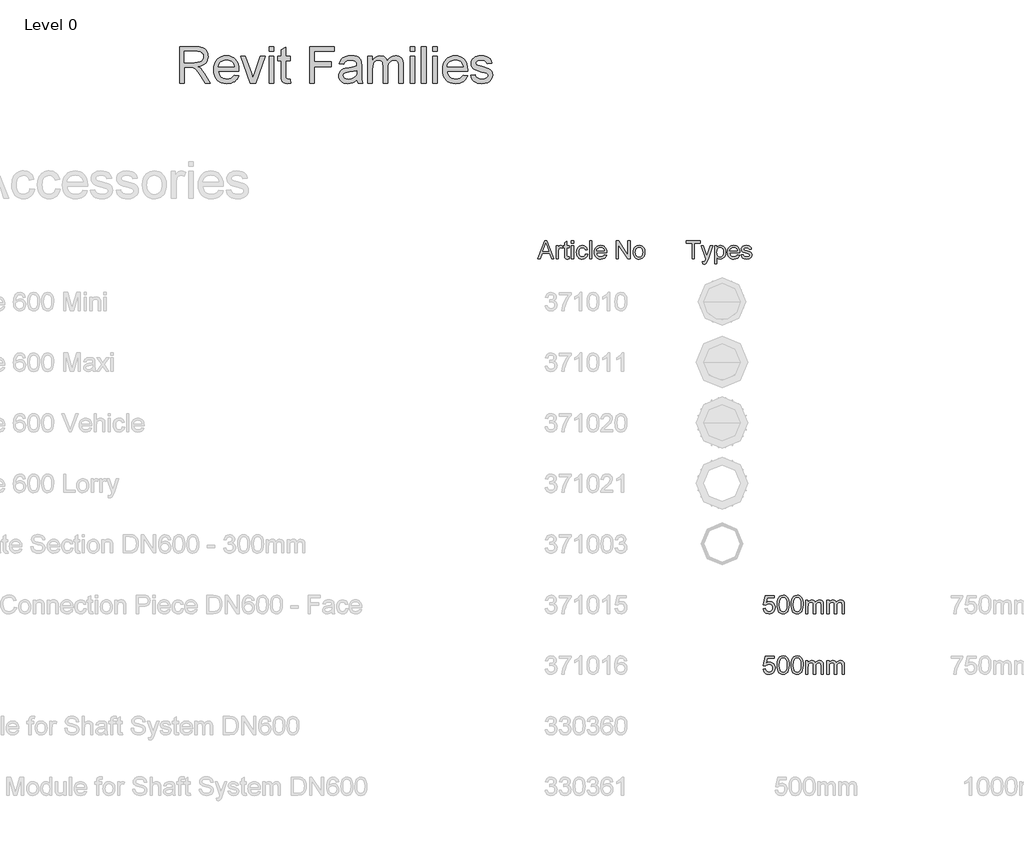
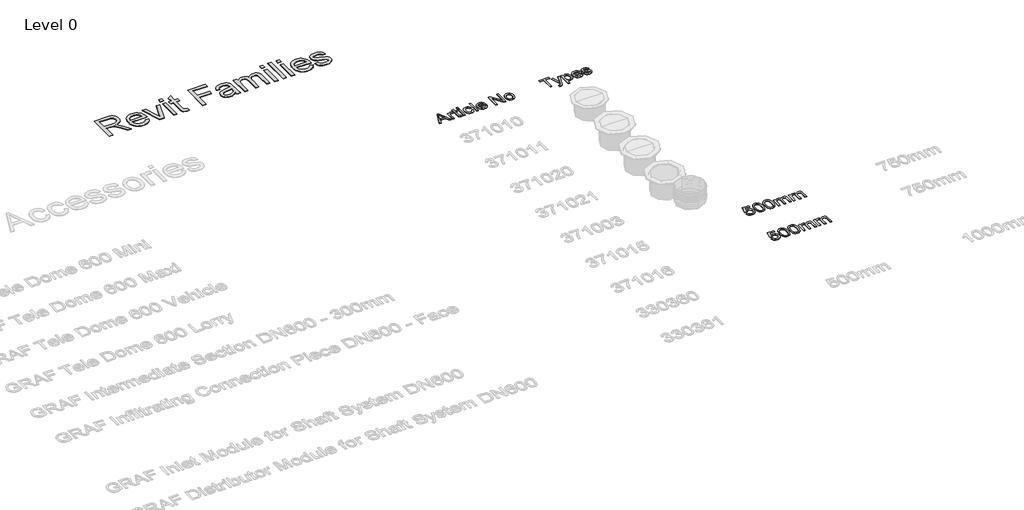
# One storey, part 24 of 25: 5 proxies.
"""IFC4 building model written with IfcOpenShell, lengths in millimetres."""

from ifc_helpers import new_model, si_unit, origin, origin_with_axes, place, context, project, spatial, polyline, outline, extrude, element, save

model = new_model("IFC4")

# Units and contexts
model_context = context("Model", 3, world=origin())
ifc_project = project(units=[si_unit("LENGTHUNIT", "METRE", prefix="MILLI")], contexts=[model_context])

# Site, building, storey
site = spatial("IfcSite", under=ifc_project)
building = spatial("IfcBuilding", under=site)
storey = spatial("IfcBuildingStorey", under=building, Name="Level 0", Elevation=0.0)

# Proxies
placement = place(None, origin())
element("IfcBuildingElementProxy", 1, Name="300mm Arial", ObjectType="300mm Arial", at=placement, inside=storey, context=model_context, shape_type="SweptSolid", body=[
    extrude(outline(polyline([(-3312.9807775, 8653.8274553), (-3195.0721236, 8949.2120707), (-3163.6298159, 8949.2120707), (-3045.7211621, 8653.8274553), (-3084.7355852, 8653.8274553), (-3118.5577005, 8746.1351476), (-3240.2163544, 8746.1351476), (-3273.9663544, 8653.8274553), (-3312.9807775, 8653.8274553)]), holes=[polyline([(-3226.6586621, 8783.0582246), (-3132.0432775, 8783.0582246), (-3158.6538544, 8855.6784169), (-3179.3509698, 8912.2889938), (-3197.7403928, 8862.0245707), (-3226.6586621, 8783.0582246)])]), origin_with_axes(), (0.0, 0.0, 1.0), 10.0),
    extrude(outline(polyline([(-3010.8894313, 8653.8274553), (-3010.8894313, 8870.7505323), (-2978.581739, 8870.7505323), (-2978.581739, 8838.6591861), (-2966.6466428, 8857.2649553), (-2955.6490467, 8868.2264938), (-2944.6153928, 8873.5810611), (-2932.5721236, 8875.3659169), (-2914.1827005, 8872.5173592), (-2895.5048159, 8863.9716861), (-2907.8365467, 8830.8707246), (-2920.8173159, 8836.5498111), (-2933.7980852, 8838.44284), (-2944.8227246, 8836.6219265), (-2954.675489, 8831.1591861), (-2962.6352246, 8822.4692823), (-2967.9807775, 8810.9668784), (-2972.4699602, 8790.3418784), (-2973.9663544, 8767.8418784), (-2973.9663544, 8653.8274553), (-3010.8894313, 8653.8274553)])), origin_with_axes(), (0.0, 0.0, 1.0), 10.0),
    extrude(outline(polyline([(-2793.9663544, 8684.6207246), (-2789.3509698, 8652.7457246), (-2816.9711621, 8649.2120707), (-2834.6935178, 8650.7445226), (-2847.9086621, 8655.3418784), (-2857.2476044, 8662.427215), (-2863.3413544, 8671.4236092), (-2866.6947198, 8686.8743303), (-2867.8125082, 8713.3226476), (-2867.8125082, 8833.8274553), (-2895.5048159, 8833.8274553), (-2895.5048159, 8870.7505323), (-2867.8125082, 8870.7505323), (-2867.8125082, 8923.4668784), (-2830.8894313, 8945.1736092), (-2830.8894313, 8870.7505323), (-2793.9663544, 8870.7505323), (-2793.9663544, 8833.8274553), (-2830.8894313, 8833.8274553), (-2830.8894313, 8714.4043784), (-2828.9423159, 8695.3659169), (-2822.6322198, 8688.6231284), (-2810.0480852, 8686.1351476), (-2793.9663544, 8684.6207246)])), origin_with_axes(), (0.0, 0.0, 1.0), 10.0),
    extrude(outline(polyline([(-2757.0432775, 8912.2889938), (-2757.0432775, 8949.2120707), (-2720.1202005, 8949.2120707), (-2720.1202005, 8912.2889938), (-2757.0432775, 8912.2889938)])), origin_with_axes(), (0.0, 0.0, 1.0), 10.0),
    extrude(outline(polyline([(-2757.0432775, 8653.8274553), (-2757.0432775, 8870.7505323), (-2720.1202005, 8870.7505323), (-2720.1202005, 8653.8274553), (-2757.0432775, 8653.8274553)])), origin_with_axes(), (0.0, 0.0, 1.0), 10.0),
    extrude(outline(polyline([(-2526.2740467, 8732.2889938), (-2489.3509698, 8727.6736092), (-2499.6454409, 8694.8340659), (-2518.9903928, 8670.0173592), (-2545.5649121, 8654.4133928), (-2577.5480852, 8649.2120707), (-2598.2564686, 8651.0262234), (-2616.8239265, 8656.4686813), (-2633.250459, 8665.5394445), (-2647.5360659, 8678.238513), (-2659.0993171, 8694.3270046), (-2667.3587823, 8713.5660371), (-2672.3144614, 8735.9556104), (-2673.9663544, 8761.4957246), (-2671.14484, 8794.3532967), (-2662.6802967, 8822.8298592), (-2648.4375082, 8845.8256525), (-2628.2812582, 8862.2409169), (-2604.1676765, 8872.0846669), (-2578.0528928, 8875.3659169), (-2546.8539746, 8870.8587053), (-2521.9110659, 8857.3370707), (-2504.0174361, 8835.5221669), (-2493.9663544, 8806.1351476), (-2530.8894313, 8801.519763), (-2537.5871477, 8817.6285371), (-2548.0168352, 8829.176013), (-2561.6015707, 8836.1261332), (-2577.7644313, 8838.44284), (-2601.6256092, 8833.8815419), (-2620.5649121, 8820.1976476), (-2632.9236861, 8796.6519746), (-2637.0432775, 8762.50534), (-2633.0138303, 8727.8989698), (-2620.925489, 8704.2721669), (-2602.3287342, 8690.6694025), (-2578.7740467, 8686.1351476), (-2559.6544553, 8688.9656765), (-2543.9783736, 8697.457263), (-2532.5751284, 8711.8262534), (-2526.2740467, 8732.2889938)])), origin_with_axes(), (0.0, 0.0, 1.0), 10.0),
    extrude(outline(polyline([(-2457.0432775, 8653.8274553), (-2457.0432775, 8949.2120707), (-2420.1202005, 8949.2120707), (-2420.1202005, 8653.8274553), (-2457.0432775, 8653.8274553)])), origin_with_axes(), (0.0, 0.0, 1.0), 10.0),
    extrude(outline(polyline([(-2212.8605852, 8718.44284), (-2176.6586621, 8713.8274553), (-2189.7025323, 8686.5498111), (-2210.5168352, 8666.1591861), (-2238.6328207, 8653.4488496), (-2273.581739, 8649.2120707), (-2296.4918953, 8651.039745), (-2316.9050563, 8656.5227678), (-2334.8212222, 8665.6611392), (-2350.2403928, 8678.4548592), (-2362.6397318, 8694.547858), (-2371.4964025, 8713.5840659), (-2376.8104049, 8735.563483), (-2378.581739, 8760.4861092), (-2376.792376, 8786.2538375), (-2371.4242871, 8808.9656765), (-2362.4774722, 8828.621626), (-2349.9519313, 8845.2216861), (-2334.5733255, 8858.4097871), (-2317.0673159, 8867.8298592), (-2297.4339025, 8873.4819025), (-2275.6730852, 8875.3659169), (-2254.6131392, 8873.4864097), (-2235.5679169, 8867.847888), (-2218.5374181, 8858.450352), (-2203.5216428, 8845.2938015), (-2191.2642811, 8828.7297991), (-2182.5090227, 8809.1099073), (-2177.2558676, 8786.434126), (-2175.5048159, 8760.7024553), (-2175.7211621, 8750.7505323), (-2341.6586621, 8750.7505323), (-2335.2674361, 8723.1123111), (-2320.4206813, 8702.7938015), (-2298.9933977, 8690.2998111), (-2272.8605852, 8686.1351476), (-2253.2091428, 8688.0642342), (-2236.6586621, 8693.8514938), (-2223.2091428, 8703.8575034), (-2212.8605852, 8718.44284)]), holes=[polyline([(-2341.6586621, 8787.6736092), (-2212.4278928, 8787.6736092), (-2217.4218832, 8807.1808207), (-2227.2115467, 8821.1351476), (-2248.737989, 8834.1159169), (-2275.8173159, 8838.44284), (-2300.706138, 8834.9903159), (-2321.2860659, 8824.6327438), (-2335.5919553, 8808.4879121), (-2341.6586621, 8787.6736092)])]), origin_with_axes(), (0.0, 0.0, 1.0), 10.0),
    extrude(outline(polyline([(-2018.581739, 8653.8274553), (-2018.581739, 8949.2120707), (-1979.0625082, 8949.2120707), (-1824.7355852, 8715.1976476), (-1824.7355852, 8949.2120707), (-1787.8125082, 8949.2120707), (-1787.8125082, 8653.8274553), (-1827.331739, 8653.8274553), (-1981.6586621, 8887.9139938), (-1981.6586621, 8653.8274553), (-2018.581739, 8653.8274553)])), origin_with_axes(), (0.0, 0.0, 1.0), 10.0),
    extrude(outline(polyline([(-1737.0432775, 8762.2889938), (-1735.0465828, 8790.3824433), (-1729.0564986, 8814.5906765), (-1719.0730251, 8834.9136933), (-1705.0961621, 8851.3514938), (-1691.0246477, 8861.8578039), (-1675.4927967, 8869.3623111), (-1658.5006092, 8873.8650154), (-1640.0480852, 8875.3659169), (-1619.6777426, 8873.5382426), (-1601.2590227, 8868.0552198), (-1584.7919253, 8858.9168484), (-1570.2764505, 8846.1231284), (-1558.429245, 8830.1067522), (-1549.9669553, 8811.3004121), (-1544.8895815, 8789.704108), (-1543.1971236, 8765.31784), (-1546.1899121, 8728.0161573), (-1555.1682775, 8699.6207246), (-1569.8708015, 8678.3557005), (-1590.0360659, 8662.4452438), (-1613.987388, 8652.520364), (-1640.0480852, 8649.2120707), (-1660.7159037, 8651.0329842), (-1679.3058977, 8656.4957246), (-1695.8180671, 8665.6002919), (-1710.2524121, 8678.3466861), (-1721.9734157, 8694.5185611), (-1730.3455611, 8713.8995707), (-1735.3688484, 8736.489715), (-1737.0432775, 8762.2889938)]), holes=[polyline([(-1700.1202005, 8762.3611092), (-1695.847364, 8728.9446428), (-1683.0288544, 8705.1375515), (-1663.737989, 8690.8857486), (-1640.0480852, 8686.1351476), (-1616.4663544, 8690.9127919), (-1597.2115467, 8705.2457246), (-1584.3930371, 8729.3683207), (-1580.1202005, 8763.5149553), (-1584.4200803, 8795.957864), (-1597.3197198, 8819.4404361), (-1616.6015707, 8833.692239), (-1640.0480852, 8838.44284), (-1663.737989, 8833.7102678), (-1683.0288544, 8819.5125515), (-1695.847364, 8795.7595467), (-1700.1202005, 8762.3611092)])]), origin_with_axes(), (0.0, 0.0, 1.0), 10.0),
])
element("IfcBuildingElementProxy", 2, Name="300mm Arial", ObjectType="300mm Arial", at=placement, inside=storey, context=model_context, shape_type="SweptSolid", body=[
    extrude(outline(polyline([(-763.9663544, 8653.8274553), (-763.9663544, 8912.2889938), (-860.8894313, 8912.2889938), (-860.8894313, 8949.2120707), (-630.1202005, 8949.2120707), (-630.1202005, 8912.2889938), (-727.0432775, 8912.2889938), (-727.0432775, 8653.8274553), (-763.9663544, 8653.8274553)])), origin_with_axes(), (0.0, 0.0, 1.0), 10.0),
    extrude(outline(polyline([(-593.1971236, 8570.7505323), (-597.8125082, 8606.3034169), (-579.0625082, 8603.0582246), (-561.5384698, 8607.1327438), (-550.7932775, 8618.4909169), (-540.6971236, 8645.6784169), (-537.8125082, 8654.6207246), (-616.2740467, 8870.7505323), (-577.331739, 8870.7505323), (-535.7211621, 8750.31784), (-521.2259698, 8702.144763), (-506.7307775, 8744.69284), (-463.9663544, 8870.7505323), (-425.3125082, 8870.7505323), (-500.8173159, 8648.6351476), (-520.4327005, 8600.4620707), (-530.4747678, 8585.083465), (-541.8509698, 8574.4284169), (-555.066114, 8568.208465), (-570.6250082, 8566.1351476), (-593.1971236, 8570.7505323)])), origin_with_axes(), (0.0, 0.0, 1.0), 10.0),
    extrude(outline(polyline([(-394.7355852, 8570.7505323), (-394.7355852, 8870.7505323), (-357.8125082, 8870.7505323), (-357.8125082, 8834.5486092), (-345.769239, 8852.4061813), (-332.2836621, 8865.16159), (-316.5625082, 8872.8148351), (-297.8125082, 8875.3659169), (-272.8425563, 8871.7962053), (-251.0096236, 8861.0870707), (-233.2331813, 8843.8875515), (-220.4327005, 8820.8466861), (-212.6983255, 8793.6411573), (-210.1202005, 8763.9476476), (-213.0318592, 8732.3701236), (-221.7668352, 8704.1279361), (-236.0456813, 8680.6543784), (-255.5889505, 8663.3827438), (-278.3503688, 8652.754739), (-302.2836621, 8649.2120707), (-319.2578207, 8651.582864), (-334.4110659, 8658.6952438), (-347.3828207, 8669.4314217), (-357.8125082, 8682.6736092), (-357.8125082, 8570.7505323), (-394.7355852, 8570.7505323)]), holes=[polyline([(-357.8125082, 8760.5582246), (-353.8191188, 8727.457263), (-341.8389505, 8704.3082246), (-324.1616669, 8690.6784169), (-303.0769313, 8686.1351476), (-281.6496477, 8690.8406765), (-263.5216428, 8704.957263), (-251.1628688, 8728.9536573), (-247.0432775, 8763.2986092), (-251.0637102, 8796.2192823), (-263.1250082, 8819.69284), (-280.7752486, 8833.75534), (-301.5625082, 8838.44284), (-322.4308977, 8833.457864), (-340.7572198, 8818.5029361), (-353.5486861, 8794.0468063), (-357.8125082, 8760.5582246)])]), origin_with_axes(), (0.0, 0.0, 1.0), 10.0),
    extrude(outline(polyline([(-16.706739, 8718.44284), (19.4951841, 8713.8274553), (6.4513139, 8686.5498111), (-14.362989, 8666.1591861), (-42.4789746, 8653.4488496), (-77.4278928, 8649.2120707), (-100.3380491, 8651.039745), (-120.7512102, 8656.5227678), (-138.667376, 8665.6611392), (-154.0865467, 8678.4548592), (-166.4858856, 8694.547858), (-175.3425563, 8713.5840659), (-180.6565587, 8735.563483), (-182.4278928, 8760.4861092), (-180.6385299, 8786.2538375), (-175.2704409, 8808.9656765), (-166.323626, 8828.621626), (-153.7980852, 8845.2216861), (-138.4194794, 8858.4097871), (-120.9134698, 8867.8298592), (-101.2800563, 8873.4819025), (-79.519239, 8875.3659169), (-58.4592931, 8873.4864097), (-39.4140707, 8867.847888), (-22.3835719, 8858.450352), (-7.3677967, 8845.2938015), (4.8895651, 8828.7297991), (13.6448235, 8809.1099073), (18.8979785, 8786.434126), (20.6490302, 8760.7024553), (20.4326841, 8750.7505323), (-145.5048159, 8750.7505323), (-139.11359, 8723.1123111), (-124.2668352, 8702.7938015), (-102.8395515, 8690.2998111), (-76.706739, 8686.1351476), (-57.0552967, 8688.0642342), (-40.5048159, 8693.8514938), (-27.0552967, 8703.8575034), (-16.706739, 8718.44284)]), holes=[polyline([(-145.5048159, 8787.6736092), (-16.2740467, 8787.6736092), (-21.2680371, 8807.1808207), (-31.0577005, 8821.1351476), (-52.5841428, 8834.1159169), (-79.6634698, 8838.44284), (-104.5522919, 8834.9903159), (-125.1322198, 8824.6327438), (-139.4381092, 8808.4879121), (-145.5048159, 8787.6736092)])]), origin_with_axes(), (0.0, 0.0, 1.0), 10.0),
    extrude(outline(polyline([(43.7259533, 8718.44284), (80.6490302, 8723.0582246), (86.4723475, 8707.2649553), (97.7403764, 8695.6543784), (114.5252322, 8688.5149553), (136.8990302, 8686.1351476), (159.0023956, 8688.316638), (174.543261, 8694.8611092), (183.7379725, 8704.3442823), (186.8028764, 8715.3418784), (183.7199437, 8724.7529361), (174.4711456, 8731.9284169), (136.4663379, 8742.457263), (80.8653764, 8760.5221669), (66.793862, 8769.5996909), (56.5985495, 8781.6159169), (50.4056408, 8795.8046188), (48.3413379, 8811.3995707), (49.9999918, 8825.7054601), (54.9759533, 8838.91159), (62.8185014, 8850.4951236), (73.0769148, 8859.9332246), (96.5504725, 8870.8587053), (128.3172995, 8875.3659169), (152.3497514, 8873.5540178), (173.2451841, 8868.1183207), (190.0480687, 8859.5906765), (201.8028764, 8848.5029361), (209.5913379, 8834.0347871), (214.4951841, 8815.3659169), (177.5721072, 8810.7505323), (172.9116504, 8822.3701236), (163.6898956, 8831.1231284), (149.8166985, 8836.6129121), (131.2019148, 8838.44284), (109.9999918, 8836.6940419), (95.8653764, 8831.4476476), (87.9146552, 8823.8755323), (85.2644148, 8815.1495707), (89.6634533, 8804.4043784), (103.4374918, 8796.25534), (135.2403764, 8788.394763), (189.4350879, 8771.0149553), (203.7499918, 8762.7036573), (214.6033572, 8751.3274553), (221.4453043, 8736.8502919), (223.7259533, 8719.2361092), (221.0486697, 8701.0269746), (213.0168187, 8683.8995707), (199.9368908, 8669.1970467), (182.1153764, 8658.2625515), (160.5889341, 8651.4746909), (136.3942225, 8649.2120707), (99.1646552, 8653.5750515), (71.9951841, 8666.6639938), (53.8581648, 8688.3346669), (43.7259533, 8718.44284)])), origin_with_axes(), (0.0, 0.0, 1.0), 10.0),
])
element("IfcBuildingElementProxy", 3, Name="300mm Arial", ObjectType="300mm Arial", at=placement, inside=storey, context=model_context, shape_type="SweptSolid", body=[
    extrude(outline(polyline([(407.9461268, 1879.074324), (445.6172432, 1883.7832135), (452.5334247, 1861.1676679), (464.5999541, 1844.971663), (481.7616492, 1835.2319872), (503.9633276, 1831.9854286), (530.965866, 1836.5011801), (551.1993758, 1850.0484346), (563.8361223, 1871.0636935), (568.0483711, 1897.9834585), (564.1028367, 1923.330528), (552.2662336, 1942.7179091), (532.4465911, 1955.0235619), (504.5519388, 1959.1254461), (486.2774007, 1957.4883712), (471.4793474, 1952.5771466), (450.3261327, 1935.5809984), (412.6550164, 1940.289888), (445.6172432, 2095.6832427), (591.5928188, 2095.6832427), (591.5928188, 2058.0121264), (476.0778724, 2058.0121264), (459.964641, 1975.0179483), (486.8752089, 1991.3519089), (515.0733638, 1996.7965624), (533.4191791, 1995.1089038), (550.2704737, 1990.0459278), (565.6272478, 1981.6076346), (579.4895012, 1969.794024), (590.9651202, 1955.3270645), (599.1619909, 1938.9287246), (604.0801133, 1920.5990042), (605.7194875, 1900.3379033), (599.8149814, 1862.666787), (592.4343489, 1845.8729739), (582.1014634, 1830.4403242), (566.4480845, 1814.635194), (548.1827434, 1803.3458153), (527.3054402, 1796.572188), (503.8161748, 1794.3143123), (466.8164431, 1800.1176508), (451.1377723, 1807.3718238), (437.3398983, 1817.5276662), (425.8596807, 1830.07934), (417.1339797, 1844.5210076), (407.9461268, 1879.074324)])), origin_with_axes(), (0.0, 0.0, 1.0), 10.0),
    extrude(outline(polyline([(638.6817142, 1947.2796459), (641.4500262, 1995.5181725), (649.7549623, 2033.9894321), (663.5137489, 2063.282036), (682.6436126, 2083.9845953), (707.2825093, 2096.290248), (737.5683945, 2100.3921323), (760.7817484, 2097.9641111), (781.5670811, 2090.6800476), (798.9495054, 2078.8250503), (811.9541339, 2062.6842278), (821.7765832, 2042.3955357), (829.6124697, 2018.0969299), (834.7444235, 1987.2408276), (836.4550748, 1947.2796459), (833.714354, 1899.3170308), (825.4921914, 1860.9377416), (811.8161782, 1831.6175466), (792.7139056, 1810.8322139), (768.0198267, 1798.4437877), (737.5683945, 1794.3143123), (716.81985, 1796.107737), (698.4257502, 1801.4880112), (682.3860952, 1810.4551348), (668.700885, 1823.0091079), (655.5674978, 1845.7028285), (646.1865069, 1873.9791583), (640.5579124, 1907.8380975), (638.6817142, 1947.2796459)]), holes=[polyline([(676.3528305, 1947.3532223), (680.7674145, 1888.0966299), (686.2856444, 1867.8286312), (694.0111663, 1853.8008309), (713.7296412, 1837.4392792), (737.5683945, 1831.9854286), (761.4071478, 1837.4576733), (781.1256228, 1853.8744073), (788.8511447, 1867.9252003), (794.3693746, 1888.1886004), (798.7839585, 1947.3532223), (794.5165274, 2005.2762424), (789.1822384, 2025.4775625), (781.7142339, 2039.8387559), (762.0325472, 2057.0004509), (737.1269361, 2062.721016), (713.5457002, 2057.6810326), (694.5997775, 2042.5610826), (686.6167382, 2026.9260978), (680.9145673, 2005.8464595), (676.3528305, 1947.3532223)])]), origin_with_axes(), (0.0, 0.0, 1.0), 10.0),
    extrude(outline(polyline([(869.4173016, 1947.2796459), (872.1856136, 1995.5181725), (880.4905496, 2033.9894321), (894.2493363, 2063.282036), (913.3792, 2083.9845953), (938.0180966, 2096.290248), (968.3039819, 2100.3921323), (991.5173358, 2097.9641111), (1012.3026685, 2090.6800476), (1029.6850928, 2078.8250503), (1042.6897213, 2062.6842278), (1052.5121706, 2042.3955357), (1060.3480571, 2018.0969299), (1065.4800109, 1987.2408276), (1067.1906622, 1947.2796459), (1064.4499413, 1899.3170308), (1056.2277787, 1860.9377416), (1042.5517656, 1831.6175466), (1023.449493, 1810.8322139), (998.755414, 1798.4437877), (968.3039819, 1794.3143123), (947.5554374, 1796.107737), (929.1613376, 1801.4880112), (913.1216826, 1810.4551348), (899.4364724, 1823.0091079), (886.3030852, 1845.7028285), (876.9220943, 1873.9791583), (871.2934998, 1907.8380975), (869.4173016, 1947.2796459)]), holes=[polyline([(907.0884179, 1947.3532223), (911.5030018, 1888.0966299), (917.0212318, 1867.8286312), (924.7467537, 1853.8008309), (944.4652286, 1837.4392792), (968.3039819, 1831.9854286), (992.1427352, 1837.4576733), (1011.8612101, 1853.8744073), (1019.586732, 1867.9252003), (1025.104962, 1888.1886004), (1029.5195459, 1947.3532223), (1025.2521148, 2005.2762424), (1019.9178258, 2025.4775625), (1012.4498213, 2039.8387559), (992.7681346, 2057.0004509), (967.8625235, 2062.721016), (944.2812876, 2057.6810326), (925.3353649, 2042.5610826), (917.3523256, 2026.9260978), (911.6501546, 2005.8464595), (907.0884179, 1947.3532223)])]), origin_with_axes(), (0.0, 0.0, 1.0), 10.0),
    extrude(outline(polyline([(1109.570668, 1799.0232018), (1109.570668, 2020.3410101), (1147.2417844, 2020.3410101), (1147.2417844, 1983.9206926), (1158.5725498, 2000.6501263), (1173.1406768, 2013.7559224), (1190.4495247, 2022.2264053), (1210.0024527, 2025.0498997), (1230.9533324, 2022.171223), (1247.7471454, 2013.5351932), (1260.2919215, 1999.7120272), (1268.49569, 1981.2719422), (1282.2268854, 2000.4247986), (1297.8894614, 2014.1054103), (1315.4834178, 2022.3137773), (1335.0087547, 2025.0498997), (1363.3264713, 2020.49736), (1384.2681538, 2006.8397409), (1397.208403, 1983.7091605), (1401.5218194, 1950.7377366), (1401.5218194, 1799.0232018), (1363.8507031, 1799.0232018), (1363.8507031, 1934.5509288), (1360.3558242, 1966.0048394), (1355.4445995, 1974.6776575), (1347.7006835, 1981.4926714), (1337.7402785, 1985.9072554), (1326.1795868, 1987.3787834), (1305.7713331, 1983.6079929), (1289.1338699, 1972.2956216), (1278.0698189, 1952.6691171), (1274.3818019, 1923.9559274), (1274.3818019, 1799.0232018), (1236.7106856, 1799.0232018), (1236.7106856, 1938.7447836), (1234.5309848, 1960.0451511), (1227.9918823, 1975.2386775), (1216.4863729, 1984.3437569), (1199.4074513, 1987.3787834), (1184.8945066, 1985.3554324), (1171.521996, 1979.2853795), (1160.4855362, 1969.3157774), (1152.9807435, 1955.593779), (1148.6765241, 1936.5558857), (1147.2417844, 1910.6385992), (1147.2417844, 1799.0232018), (1109.570668, 1799.0232018)])), origin_with_axes(), (0.0, 0.0, 1.0), 10.0),
    extrude(outline(polyline([(1458.0284939, 1799.0232018), (1458.0284939, 2020.3410101), (1495.6996102, 2020.3410101), (1495.6996102, 1983.9206926), (1507.0303756, 2000.6501263), (1521.5985026, 2013.7559224), (1538.9073505, 2022.2264053), (1558.4602786, 2025.0498997), (1579.4111582, 2022.171223), (1596.2049713, 2013.5351932), (1608.7497473, 1999.7120272), (1616.9535158, 1981.2719422), (1630.6847113, 2000.4247986), (1646.3472872, 2014.1054103), (1663.9412436, 2022.3137773), (1683.4665805, 2025.0498997), (1711.7842971, 2020.49736), (1732.7259797, 2006.8397409), (1745.6662289, 1983.7091605), (1749.9796452, 1950.7377366), (1749.9796452, 1799.0232018), (1712.3085289, 1799.0232018), (1712.3085289, 1934.5509288), (1708.81365, 1966.0048394), (1703.9024254, 1974.6776575), (1696.1585094, 1981.4926714), (1686.1981043, 1985.9072554), (1674.6374126, 1987.3787834), (1654.229159, 1983.6079929), (1637.5916957, 1972.2956216), (1626.5276447, 1952.6691171), (1622.8396277, 1923.9559274), (1622.8396277, 1799.0232018), (1585.1685114, 1799.0232018), (1585.1685114, 1938.7447836), (1582.9888106, 1960.0451511), (1576.4497081, 1975.2386775), (1564.9441987, 1984.3437569), (1547.8652771, 1987.3787834), (1533.3523324, 1985.3554324), (1519.9798219, 1979.2853795), (1508.943362, 1969.3157774), (1501.4385693, 1955.593779), (1497.13435, 1936.5558857), (1495.6996102, 1910.6385992), (1495.6996102, 1799.0232018), (1458.0284939, 1799.0232018)])), origin_with_axes(), (0.0, 0.0, 1.0), 10.0),
])
element("IfcBuildingElementProxy", 4, Name="300mm Arial", ObjectType="300mm Arial", at=placement, inside=storey, context=model_context, shape_type="SweptSolid", body=[
    extrude(outline(polyline([(407.9461268, 2879.074324), (445.6172432, 2883.7832135), (452.5334247, 2861.1676679), (464.5999541, 2844.971663), (481.7616492, 2835.2319872), (503.9633276, 2831.9854286), (530.965866, 2836.5011801), (551.1993758, 2850.0484346), (563.8361223, 2871.0636935), (568.0483711, 2897.9834585), (564.1028367, 2923.330528), (552.2662336, 2942.7179091), (532.4465911, 2955.0235619), (504.5519388, 2959.1254461), (486.2774007, 2957.4883712), (471.4793474, 2952.5771466), (450.3261327, 2935.5809984), (412.6550164, 2940.289888), (445.6172432, 3095.6832427), (591.5928188, 3095.6832427), (591.5928188, 3058.0121264), (476.0778724, 3058.0121264), (459.964641, 2975.0179483), (486.8752089, 2991.3519089), (515.0733638, 2996.7965624), (533.4191791, 2995.1089038), (550.2704737, 2990.0459278), (565.6272478, 2981.6076346), (579.4895012, 2969.794024), (590.9651202, 2955.3270645), (599.1619909, 2938.9287246), (604.0801133, 2920.5990042), (605.7194875, 2900.3379033), (599.8149814, 2862.666787), (592.4343489, 2845.8729739), (582.1014634, 2830.4403242), (566.4480845, 2814.635194), (548.1827434, 2803.3458153), (527.3054402, 2796.572188), (503.8161748, 2794.3143123), (466.8164431, 2800.1176508), (451.1377723, 2807.3718238), (437.3398983, 2817.5276662), (425.8596807, 2830.07934), (417.1339797, 2844.5210076), (407.9461268, 2879.074324)])), origin_with_axes(), (0.0, 0.0, 1.0), 10.0),
    extrude(outline(polyline([(638.6817142, 2947.2796459), (641.4500262, 2995.5181725), (649.7549623, 3033.9894321), (663.5137489, 3063.282036), (682.6436126, 3083.9845953), (707.2825093, 3096.290248), (737.5683945, 3100.3921323), (760.7817484, 3097.9641111), (781.5670811, 3090.6800476), (798.9495054, 3078.8250503), (811.9541339, 3062.6842278), (821.7765832, 3042.3955357), (829.6124697, 3018.0969299), (834.7444235, 2987.2408276), (836.4550748, 2947.2796459), (833.714354, 2899.3170308), (825.4921914, 2860.9377416), (811.8161782, 2831.6175466), (792.7139056, 2810.8322139), (768.0198267, 2798.4437877), (737.5683945, 2794.3143123), (716.81985, 2796.107737), (698.4257502, 2801.4880112), (682.3860952, 2810.4551348), (668.700885, 2823.0091079), (655.5674978, 2845.7028285), (646.1865069, 2873.9791583), (640.5579124, 2907.8380975), (638.6817142, 2947.2796459)]), holes=[polyline([(676.3528305, 2947.3532223), (680.7674145, 2888.0966299), (686.2856444, 2867.8286312), (694.0111663, 2853.8008309), (713.7296412, 2837.4392792), (737.5683945, 2831.9854286), (761.4071478, 2837.4576733), (781.1256228, 2853.8744073), (788.8511447, 2867.9252003), (794.3693746, 2888.1886004), (798.7839585, 2947.3532223), (794.5165274, 3005.2762424), (789.1822384, 3025.4775625), (781.7142339, 3039.8387559), (762.0325472, 3057.0004509), (737.1269361, 3062.721016), (713.5457002, 3057.6810326), (694.5997775, 3042.5610826), (686.6167382, 3026.9260978), (680.9145673, 3005.8464595), (676.3528305, 2947.3532223)])]), origin_with_axes(), (0.0, 0.0, 1.0), 10.0),
    extrude(outline(polyline([(869.4173016, 2947.2796459), (872.1856136, 2995.5181725), (880.4905496, 3033.9894321), (894.2493363, 3063.282036), (913.3792, 3083.9845953), (938.0180966, 3096.290248), (968.3039819, 3100.3921323), (991.5173358, 3097.9641111), (1012.3026685, 3090.6800476), (1029.6850928, 3078.8250503), (1042.6897213, 3062.6842278), (1052.5121706, 3042.3955357), (1060.3480571, 3018.0969299), (1065.4800109, 2987.2408276), (1067.1906622, 2947.2796459), (1064.4499413, 2899.3170308), (1056.2277787, 2860.9377416), (1042.5517656, 2831.6175466), (1023.449493, 2810.8322139), (998.755414, 2798.4437877), (968.3039819, 2794.3143123), (947.5554374, 2796.107737), (929.1613376, 2801.4880112), (913.1216826, 2810.4551348), (899.4364724, 2823.0091079), (886.3030852, 2845.7028285), (876.9220943, 2873.9791583), (871.2934998, 2907.8380975), (869.4173016, 2947.2796459)]), holes=[polyline([(907.0884179, 2947.3532223), (911.5030018, 2888.0966299), (917.0212318, 2867.8286312), (924.7467537, 2853.8008309), (944.4652286, 2837.4392792), (968.3039819, 2831.9854286), (992.1427352, 2837.4576733), (1011.8612101, 2853.8744073), (1019.586732, 2867.9252003), (1025.104962, 2888.1886004), (1029.5195459, 2947.3532223), (1025.2521148, 3005.2762424), (1019.9178258, 3025.4775625), (1012.4498213, 3039.8387559), (992.7681346, 3057.0004509), (967.8625235, 3062.721016), (944.2812876, 3057.6810326), (925.3353649, 3042.5610826), (917.3523256, 3026.9260978), (911.6501546, 3005.8464595), (907.0884179, 2947.3532223)])]), origin_with_axes(), (0.0, 0.0, 1.0), 10.0),
    extrude(outline(polyline([(1109.570668, 2799.0232018), (1109.570668, 3020.3410101), (1147.2417844, 3020.3410101), (1147.2417844, 2983.9206926), (1158.5725498, 3000.6501263), (1173.1406768, 3013.7559224), (1190.4495247, 3022.2264053), (1210.0024527, 3025.0498997), (1230.9533324, 3022.171223), (1247.7471454, 3013.5351932), (1260.2919215, 2999.7120272), (1268.49569, 2981.2719422), (1282.2268854, 3000.4247986), (1297.8894614, 3014.1054103), (1315.4834178, 3022.3137773), (1335.0087547, 3025.0498997), (1363.3264713, 3020.49736), (1384.2681538, 3006.8397409), (1397.208403, 2983.7091605), (1401.5218194, 2950.7377366), (1401.5218194, 2799.0232018), (1363.8507031, 2799.0232018), (1363.8507031, 2934.5509288), (1360.3558242, 2966.0048394), (1355.4445995, 2974.6776575), (1347.7006835, 2981.4926714), (1337.7402785, 2985.9072554), (1326.1795868, 2987.3787834), (1305.7713331, 2983.6079929), (1289.1338699, 2972.2956216), (1278.0698189, 2952.6691171), (1274.3818019, 2923.9559274), (1274.3818019, 2799.0232018), (1236.7106856, 2799.0232018), (1236.7106856, 2938.7447836), (1234.5309848, 2960.0451511), (1227.9918823, 2975.2386775), (1216.4863729, 2984.3437569), (1199.4074513, 2987.3787834), (1184.8945066, 2985.3554324), (1171.521996, 2979.2853795), (1160.4855362, 2969.3157774), (1152.9807435, 2955.593779), (1148.6765241, 2936.5558857), (1147.2417844, 2910.6385992), (1147.2417844, 2799.0232018), (1109.570668, 2799.0232018)])), origin_with_axes(), (0.0, 0.0, 1.0), 10.0),
    extrude(outline(polyline([(1458.0284939, 2799.0232018), (1458.0284939, 3020.3410101), (1495.6996102, 3020.3410101), (1495.6996102, 2983.9206926), (1507.0303756, 3000.6501263), (1521.5985026, 3013.7559224), (1538.9073505, 3022.2264053), (1558.4602786, 3025.0498997), (1579.4111582, 3022.171223), (1596.2049713, 3013.5351932), (1608.7497473, 2999.7120272), (1616.9535158, 2981.2719422), (1630.6847113, 3000.4247986), (1646.3472872, 3014.1054103), (1663.9412436, 3022.3137773), (1683.4665805, 3025.0498997), (1711.7842971, 3020.49736), (1732.7259797, 3006.8397409), (1745.6662289, 2983.7091605), (1749.9796452, 2950.7377366), (1749.9796452, 2799.0232018), (1712.3085289, 2799.0232018), (1712.3085289, 2934.5509288), (1708.81365, 2966.0048394), (1703.9024254, 2974.6776575), (1696.1585094, 2981.4926714), (1686.1981043, 2985.9072554), (1674.6374126, 2987.3787834), (1654.229159, 2983.6079929), (1637.5916957, 2972.2956216), (1626.5276447, 2952.6691171), (1622.8396277, 2923.9559274), (1622.8396277, 2799.0232018), (1585.1685114, 2799.0232018), (1585.1685114, 2938.7447836), (1582.9888106, 2960.0451511), (1576.4497081, 2975.2386775), (1564.9441987, 2984.3437569), (1547.8652771, 2987.3787834), (1533.3523324, 2985.3554324), (1519.9798219, 2979.2853795), (1508.943362, 2969.3157774), (1501.4385693, 2955.593779), (1497.13435, 2936.5558857), (1495.6996102, 2910.6385992), (1495.6996102, 2799.0232018), (1458.0284939, 2799.0232018)])), origin_with_axes(), (0.0, 0.0, 1.0), 10.0),
])
element("IfcBuildingElementProxy", 5, Name="600mm Arial", ObjectType="600mm Arial", at=placement, inside=storey, context=model_context, shape_type="SweptSolid", body=[
    extrude(outline(polyline([(-9226.1144326, 11555.647095), (-9226.1144326, 12158.3849559), (-8966.389744, 12158.3849559), (-8896.5841354, 12154.3198599), (-8845.798026, 12142.1245717), (-8826.1991127, 12132.4308811), (-8808.6787327, 12119.6101936), (-8793.2368859, 12103.6625091), (-8779.8735725, 12084.5878277), (-8769.0900315, 12063.4116203), (-8761.3875022, 12041.1593581), (-8756.7659846, 12017.8310411), (-8755.2254788, 11993.4266693), (-8757.7776601, 11962.4693994), (-8765.4342042, 11934.0505152), (-8778.1951109, 11908.1700169), (-8796.0603802, 11884.8279043), (-8819.2599386, 11864.7691385), (-8848.0237121, 11848.7386806), (-8882.3517007, 11836.7365305), (-8922.2439046, 11828.7626882), (-8897.4118699, 11812.5390922), (-8879.4224404, 11796.5362254), (-8848.557141, 11759.9319669), (-8818.3540292, 11718.9867009), (-8717.8486681, 11555.647095), (-8805.4045829, 11555.647095), (-8883.8370243, 11680.5798206), (-8940.4908516, 11763.2796931), (-8961.5520958, 11787.3943579), (-8980.2956834, 11802.348761), (-9016.1273898, 11816.6961588), (-9059.8317708, 11819.3449091), (-9150.7722, 11819.3449091), (-9150.7722, 11555.647095), (-9226.1144326, 11555.647095)]), holes=[polyline([(-9150.7722, 11894.6871418), (-8982.1350934, 11894.6871418), (-8933.7034287, 11897.3542862), (-8896.1242829, 11905.3557196), (-8867.8341575, 11919.2248708), (-8847.269554, 11939.4951688), (-8834.743172, 11964.0145037), (-8830.5677114, 11990.6307661), (-8832.5588727, 12009.8985856), (-8838.5323566, 12027.3821774), (-8848.4881631, 12043.0815416), (-8862.4262922, 12056.996678), (-8880.6686406, 12068.3918228), (-8903.5371051, 12076.531212), (-8931.0316858, 12081.4148455), (-8963.1523825, 12083.0427233), (-9150.7722, 12083.0427233), (-9150.7722, 11894.6871418)])]), origin_with_axes(), (0.0, 0.0, 1.0), 10.0),
    extrude(outline(polyline([(-8322.8905581, 11687.4960021), (-8249.0198534, 11678.078223), (-8260.3460203, 11648.4913135), (-8275.6361158, 11622.4176771), (-8294.8901397, 11599.8573138), (-8318.1080921, 11580.8102235), (-8345.0508497, 11565.6810764), (-8375.4792893, 11554.8745428), (-8409.3934107, 11548.3906226), (-8446.793214, 11546.2293159), (-8493.5418186, 11549.9587196), (-8535.1952575, 11561.1469308), (-8571.7535307, 11579.7939495), (-8603.2166384, 11605.8997755), (-8628.5177226, 11638.7378421), (-8646.5899256, 11677.5815823), (-8657.4332474, 11722.430996), (-8661.047688, 11773.2860833), (-8657.3964592, 11825.8656175), (-8646.4427728, 11872.2095518), (-8628.1866288, 11912.3178864), (-8602.6280272, 11946.1906211), (-8571.247693, 11973.101189), (-8535.5263513, 11992.3230233), (-8495.464002, 12003.8561238), (-8451.0606452, 12007.7004907), (-8408.0874296, 12003.8653209), (-8369.2252953, 11992.3598115), (-8334.4742424, 11973.1839625), (-8303.8342707, 11946.3377739), (-8278.8228936, 11912.5386156), (-8260.9576242, 11872.5038574), (-8250.2384625, 11826.2334995), (-8246.6654087, 11773.7275417), (-8247.106867, 11753.4204556), (-8585.7054554, 11753.4204556), (-8581.3414552, 11723.3552996), (-8572.6640387, 11697.0241457), (-8559.6732057, 11674.4269942), (-8542.3689564, 11655.5638449), (-8521.7077838, 11640.6922152), (-8498.6461812, 11630.0696226), (-8473.1841487, 11623.6960671), (-8445.321686, 11621.5715485), (-8405.2225486, 11625.5078859), (-8371.4509814, 11637.3168979), (-8344.0069846, 11657.7343487), (-8322.8905581, 11687.4960021)]), holes=[polyline([(-8585.7054554, 11828.7626882), (-8322.0076413, 11828.7626882), (-8332.1979725, 11868.5675201), (-8340.9627611, 11884.220899), (-8352.1739649, 11897.0415865), (-8372.7201743, 11912.4926303), (-8396.0990751, 11923.5290902), (-8422.3106672, 11930.1509661), (-8451.3549508, 11932.3582581), (-8477.8470529, 11930.597023), (-8502.1410602, 11925.3133179), (-8524.2369725, 11916.5071426), (-8544.13479, 11904.1784972), (-8560.832034, 11888.8975989), (-8573.3262263, 11871.2346646), (-8581.6173667, 11851.1896944), (-8585.7054554, 11828.7626882)])]), origin_with_axes(), (0.0, 0.0, 1.0), 10.0),
    extrude(outline(polyline([(-8062.7244111, 11555.647095), (-8218.4120714, 11998.2827116), (-8138.6552549, 11998.2827116), (-8044.3303113, 11733.1133695), (-8015.9298213, 11643.9387738), (-7988.1179424, 11728.1101743), (-7893.2043877, 11998.2827116), (-7813.4475711, 11998.2827116), (-7967.2222451, 11555.647095), (-8062.7244111, 11555.647095)])), origin_with_axes(), (0.0, 0.0, 1.0), 10.0),
    extrude(outline(polyline([(-7747.5231176, 12083.0427233), (-7747.5231176, 12158.3849559), (-7672.180885, 12158.3849559), (-7672.180885, 12083.0427233), (-7747.5231176, 12083.0427233)])), origin_with_axes(), (0.0, 0.0, 1.0), 10.0),
    extrude(outline(polyline([(-7747.5231176, 11555.647095), (-7747.5231176, 11998.2827116), (-7672.180885, 11998.2827116), (-7672.180885, 11555.647095), (-7747.5231176, 11555.647095)])), origin_with_axes(), (0.0, 0.0, 1.0), 10.0),
    extrude(outline(polyline([(-7399.0652918, 11618.4813398), (-7389.6475127, 11553.439803), (-7446.0070343, 11546.2293159), (-7482.1698345, 11549.3563129), (-7509.1355847, 11558.7373038), (-7528.1918721, 11573.1950662), (-7540.6262835, 11591.5523777), (-7547.4688886, 11623.0798647), (-7549.749757, 11677.0481534), (-7549.749757, 11922.940479), (-7606.2564314, 11922.940479), (-7606.2564314, 11998.2827116), (-7549.749757, 11998.2827116), (-7549.749757, 12105.851407), (-7474.4075244, 12150.1443992), (-7474.4075244, 11998.2827116), (-7399.0652918, 11998.2827116), (-7399.0652918, 11922.940479), (-7474.4075244, 11922.940479), (-7474.4075244, 11679.2554454), (-7470.4343988, 11640.4071067), (-7457.558529, 11626.6483201), (-7446.687616, 11622.8407414), (-7431.8803657, 11621.5715485), (-7399.0652918, 11618.4813398)])), origin_with_axes(), (0.0, 0.0, 1.0), 10.0),
    extrude(outline(polyline([(-7078.8608032, 11555.647095), (-7078.8608032, 12158.3849559), (-6673.8963029, 12158.3849559), (-6673.8963029, 12083.0427233), (-7003.5185706, 12083.0427233), (-7003.5185706, 11904.1049208), (-6720.9851983, 11904.1049208), (-6720.9851983, 11828.7626882), (-7003.5185706, 11828.7626882), (-7003.5185706, 11555.647095), (-7078.8608032, 11555.647095)])), origin_with_axes(), (0.0, 0.0, 1.0), 10.0),
    extrude(outline(polyline([(-6297.1851398, 11612.1537695), (-6333.182393, 11581.2884701), (-6370.2465041, 11561.0917485), (-6409.2236014, 11549.9449241), (-6450.9598138, 11546.2293159), (-6484.5060532, 11548.464199), (-6513.9228173, 11555.1688484), (-6539.2101059, 11566.343264), (-6560.3679192, 11581.9874459), (-6577.0743603, 11601.1081126), (-6589.0075325, 11622.7119827), (-6596.1674358, 11646.7990564), (-6598.5540703, 11673.3693335), (-6594.9488267, 11704.6025148), (-6584.133096, 11732.9662167), (-6567.4496476, 11757.2464284), (-6546.2412505, 11776.2291393), (-6521.3172454, 11790.5765371), (-6493.4869724, 11800.9508094), (-6428.2982829, 11812.2815748), (-6351.2637931, 11824.2009515), (-6297.6265982, 11838.1804673), (-6297.1851398, 11854.9558863), (-6302.3722759, 11888.5803006), (-6308.8561961, 11901.0331062), (-6317.9336843, 11910.5796439), (-6333.6238514, 11920.1077876), (-6352.7353211, 11926.9136045), (-6401.222168, 11932.3582581), (-6446.1037715, 11928.7346204), (-6477.4473174, 11917.8637075), (-6498.8212614, 11897.7589564), (-6513.7940586, 11866.4338045), (-6589.1362912, 11875.8515836), (-6576.0580863, 11917.0543671), (-6556.5419464, 11949.4279826), (-6528.7668558, 11974.1864409), (-6490.9117985, 11992.5437525), (-6444.6138494, 12003.9113061), (-6391.5100834, 12007.7004907), (-6340.5768211, 12004.3527645), (-6300.2017722, 11994.309586), (-6269.7595371, 11979.2080301), (-6248.6247164, 11960.6851717), (-6234.6084124, 11937.7845175), (-6225.5217272, 11909.5495744), (-6221.8429072, 11843.6251208), (-6221.8429072, 11749.8887885), (-6218.0169344, 11618.9963746), (-6212.3515517, 11586.6411531), (-6203.007349, 11555.647095), (-6278.3495817, 11555.647095), (-6290.4161111, 11581.8402931), (-6297.1851398, 11612.1537695)]), holes=[polyline([(-6297.1851398, 11762.8382347), (-6347.8057023, 11750.2934586), (-6418.733351, 11739.7352454), (-6483.5541586, 11727.5215631), (-6500.421548, 11719.1706419), (-6512.9111418, 11707.6559354), (-6520.6366637, 11693.8603606), (-6523.2118376, 11678.6668342), (-6517.6016372, 11656.2628207), (-6500.7710359, 11637.9055091), (-6473.0879158, 11625.6550387), (-6434.9201588, 11621.5715485), (-6394.4531393, 11626.078103), (-6358.6950094, 11639.5977663), (-6329.7059082, 11659.5185763), (-6309.5459748, 11683.2285709), (-6300.6064424, 11707.6559354), (-6297.6265982, 11741.501079), (-6297.1851398, 11762.8382347)])]), origin_with_axes(), (0.0, 0.0, 1.0), 10.0),
    extrude(outline(polyline([(-6118.2473374, 11555.647095), (-6118.2473374, 11998.2827116), (-6042.9051047, 11998.2827116), (-6042.9051047, 11925.4420766), (-6020.2435738, 11958.900944), (-5991.1073198, 11985.1125362), (-5956.4896241, 12002.053502), (-5917.383768, 12007.7004907), (-5875.4820087, 12001.9431374), (-5857.648929, 11994.7464459), (-5841.8943826, 11984.6710778), (-5816.8048305, 11957.0247458), (-5800.3972935, 11920.1445758), (-5772.9349026, 11958.4502886), (-5741.6097507, 11985.811512), (-5706.4218379, 12002.228246), (-5667.3711641, 12007.7004907), (-5637.209439, 12005.4242208), (-5610.7357309, 11998.5954113), (-5587.9500398, 11987.2140621), (-5568.8523658, 11971.2801732), (-5553.7554084, 11950.6098035), (-5542.9718674, 11925.0190123), (-5536.5017428, 11894.5077993), (-5534.3450346, 11859.0761646), (-5534.3450346, 11555.647095), (-5609.6872672, 11555.647095), (-5609.6872672, 11826.702549), (-5611.4347067, 11864.2816949), (-5616.6770251, 11889.6103702), (-5626.4994744, 11906.9560063), (-5641.9873064, 11920.5860342), (-5661.9081164, 11929.4152021), (-5685.0294998, 11932.3582581), (-5706.3804511, 11930.4728628), (-5725.8460072, 11924.8166772), (-5743.426168, 11915.389701), (-5759.1209337, 11902.1919345), (-5772.0289932, 11884.8371013), (-5781.2490357, 11862.9389256), (-5786.7810612, 11836.4974072), (-5788.6250697, 11805.5125461), (-5788.6250697, 11555.647095), (-5863.9673023, 11555.647095), (-5863.9673023, 11835.0902585), (-5868.3267039, 11877.6909936), (-5873.775956, 11894.4112303), (-5881.4049089, 11908.0780464), (-5891.5170652, 11918.700639), (-5904.4159277, 11926.2882051), (-5920.1014962, 11930.8407448), (-5938.5737709, 11932.3582581), (-5967.5996603, 11928.3115561), (-5994.3446814, 11916.1714503), (-6016.4176011, 11896.2322461), (-6031.4271865, 11868.7882493), (-6040.0356252, 11830.7124628), (-6042.9051047, 11778.8778897), (-6042.9051047, 11555.647095), (-6118.2473374, 11555.647095)])), origin_with_axes(), (0.0, 0.0, 1.0), 10.0),
    extrude(outline(polyline([(-5421.3316857, 12083.0427233), (-5421.3316857, 12158.3849559), (-5345.9894531, 12158.3849559), (-5345.9894531, 12083.0427233), (-5421.3316857, 12083.0427233)])), origin_with_axes(), (0.0, 0.0, 1.0), 10.0),
    extrude(outline(polyline([(-5421.3316857, 11555.647095), (-5421.3316857, 11998.2827116), (-5345.9894531, 11998.2827116), (-5345.9894531, 11555.647095), (-5421.3316857, 11555.647095)])), origin_with_axes(), (0.0, 0.0, 1.0), 10.0),
    extrude(outline(polyline([(-5232.9761042, 11555.647095), (-5232.9761042, 12158.3849559), (-5157.6338716, 12158.3849559), (-5157.6338716, 11555.647095), (-5232.9761042, 11555.647095)])), origin_with_axes(), (0.0, 0.0, 1.0), 10.0),
    extrude(outline(polyline([(-5044.6205226, 12083.0427233), (-5044.6205226, 12158.3849559), (-4969.27829, 12158.3849559), (-4969.27829, 12083.0427233), (-5044.6205226, 12083.0427233)])), origin_with_axes(), (0.0, 0.0, 1.0), 10.0),
    extrude(outline(polyline([(-5044.6205226, 11555.647095), (-5044.6205226, 11998.2827116), (-4969.27829, 11998.2827116), (-4969.27829, 11555.647095), (-5044.6205226, 11555.647095)])), origin_with_axes(), (0.0, 0.0, 1.0), 10.0),
    extrude(outline(polyline([(-4546.3611484, 11687.4960021), (-4472.4904437, 11678.078223), (-4483.8166107, 11648.4913135), (-4499.1067061, 11622.4176771), (-4518.36073, 11599.8573138), (-4541.5786824, 11580.8102235), (-4568.5214401, 11565.6810764), (-4598.9498796, 11554.8745428), (-4632.864001, 11548.3906226), (-4670.2638043, 11546.2293159), (-4717.0124089, 11549.9587196), (-4758.6658478, 11561.1469308), (-4795.2241211, 11579.7939495), (-4826.6872287, 11605.8997755), (-4851.9883129, 11638.7378421), (-4870.0605159, 11677.5815823), (-4880.9038377, 11722.430996), (-4884.5182783, 11773.2860833), (-4880.8670495, 11825.8656175), (-4869.9133631, 11872.2095518), (-4851.6572191, 11912.3178864), (-4826.0986175, 11946.1906211), (-4794.7182833, 11973.101189), (-4758.9969416, 11992.3230233), (-4718.9345923, 12003.8561238), (-4674.5312355, 12007.7004907), (-4631.5580199, 12003.8653209), (-4592.6958857, 11992.3598115), (-4557.9448327, 11973.1839625), (-4527.304861, 11946.3377739), (-4502.2934839, 11912.5386156), (-4484.4282145, 11872.5038574), (-4473.7090528, 11826.2334995), (-4470.135999, 11773.7275417), (-4470.5774574, 11753.4204556), (-4809.1760457, 11753.4204556), (-4804.8120456, 11723.3552996), (-4796.134629, 11697.0241457), (-4783.143796, 11674.4269942), (-4765.8395467, 11655.5638449), (-4745.1783741, 11640.6922152), (-4722.1167716, 11630.0696226), (-4696.654739, 11623.6960671), (-4668.7922764, 11621.5715485), (-4628.6931389, 11625.5078859), (-4594.9215717, 11637.3168979), (-4567.4775749, 11657.7343487), (-4546.3611484, 11687.4960021)]), holes=[polyline([(-4809.1760457, 11828.7626882), (-4545.4782316, 11828.7626882), (-4555.6685628, 11868.5675201), (-4564.4333514, 11884.220899), (-4575.6445552, 11897.0415865), (-4596.1907646, 11912.4926303), (-4619.5696654, 11923.5290902), (-4645.7812576, 11930.1509661), (-4674.8255411, 11932.3582581), (-4701.3176433, 11930.597023), (-4725.6116505, 11925.3133179), (-4747.7075629, 11916.5071426), (-4767.6053803, 11904.1784972), (-4784.3026243, 11888.8975989), (-4796.7968166, 11871.2346646), (-4805.087957, 11851.1896944), (-4809.1760457, 11828.7626882)])]), origin_with_axes(), (0.0, 0.0, 1.0), 10.0),
    extrude(outline(polyline([(-4423.0471036, 11687.4960021), (-4347.704871, 11696.9137811), (-4343.1523313, 11679.733692), (-4335.8222825, 11664.6873184), (-4325.7147247, 11651.7746603), (-4312.8296578, 11640.9957179), (-4297.1302937, 11632.4976438), (-4278.5798441, 11626.4275909), (-4232.9256885, 11621.5715485), (-4187.8233559, 11626.0229207), (-4170.2937788, 11631.5871359), (-4156.1119279, 11639.3770371), (-4137.3499461, 11658.72763), (-4132.6594507, 11669.5617548), (-4131.0959522, 11681.1684318), (-4132.6686477, 11691.3403689), (-4137.3867343, 11700.3718719), (-4156.2590807, 11715.0135753), (-4184.4756297, 11724.5785072), (-4233.8086053, 11736.4978838), (-4302.5657502, 11756.3819057), (-4347.2634126, 11773.3596597), (-4375.9766023, 11791.8825182), (-4396.7803291, 11816.4018532), (-4409.4170757, 11845.3541662), (-4413.6293245, 11877.1759588), (-4410.2448102, 11906.3673951), (-4400.0912671, 11933.3147512), (-4384.0884003, 11956.9511694), (-4363.1559148, 11976.2097919), (-4342.3521879, 11988.3315036), (-4315.257679, 11998.5034408), (-4283.9325271, 12005.4012282), (-4250.4368714, 12007.7004907), (-4201.3982015, 12004.0032766), (-4158.7606782, 11992.9116345), (-4124.4740763, 11975.5108161), (-4100.4881702, 11952.8860734), (-4084.595668, 11923.3635433), (-4074.5892778, 11885.2693627), (-4149.9315104, 11875.8515836), (-4159.4412599, 11899.5615782), (-4178.258424, 11917.4222491), (-4206.5669435, 11928.6242558), (-4244.5507595, 11932.3582581), (-4287.8136822, 11928.7898027), (-4316.6556306, 11918.0844366), (-4332.8792266, 11902.6333929), (-4338.2870919, 11884.8279043), (-4336.0430117, 11873.2396214), (-4329.3107712, 11862.9021374), (-4317.7960648, 11853.6682993), (-4301.2045868, 11846.2738712), (-4236.3102028, 11830.2342162), (-4125.7248751, 11794.7703919), (-4096.5150447, 11777.8110319), (-4074.3685486, 11754.597678), (-4060.4074268, 11725.0567538), (-4055.7537196, 11689.1146828), (-4061.2167672, 11651.9586013), (-4077.6059101, 11617.0098118), (-4104.2957489, 11587.0090351), (-4140.6608841, 11564.6969921), (-4184.5859943, 11550.846235), (-4233.9557581, 11546.2293159), (-4274.505551, 11548.455002), (-4309.9233901, 11555.1320602), (-4340.2092753, 11566.2604906), (-4365.3632067, 11581.8402931), (-4385.9094162, 11601.7978913), (-4402.3721355, 11626.0597089), (-4414.7513646, 11654.6257458), (-4423.0471036, 11687.4960021)])), origin_with_axes(), (0.0, 0.0, 1.0), 10.0),
])

save(model, "model.ifc")
